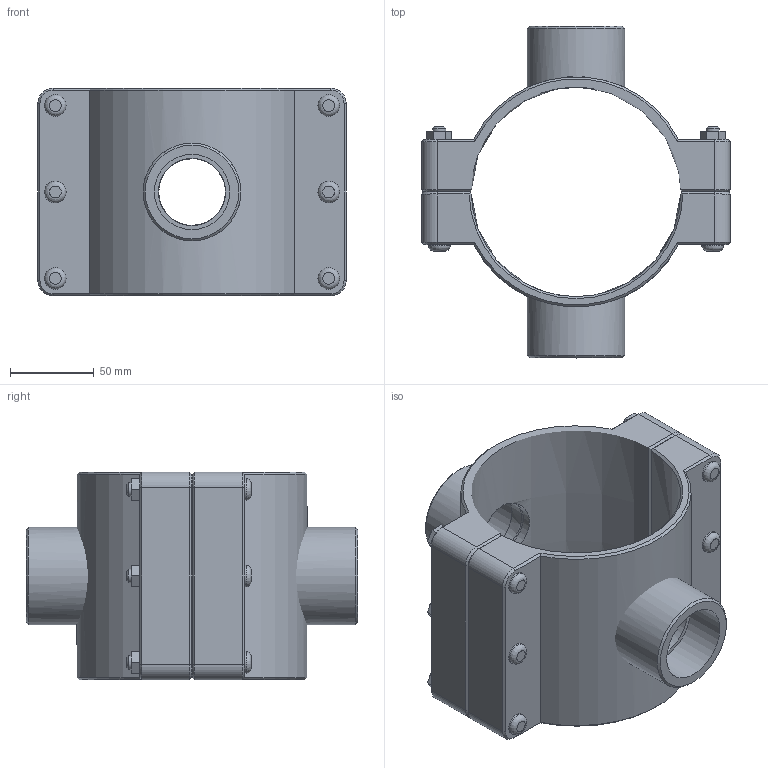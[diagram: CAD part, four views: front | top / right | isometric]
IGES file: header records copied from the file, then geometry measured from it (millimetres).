
Global section: file name: 161760125015_161860125015.ipt; native system: Autodesk Inventor 2015; preprocessor: unknown; author: KIM; date: 20170618.093753; units: millimetre
Bounding box: 184 x 198 x 124 mm (x, y, z)
Volume: 781787.4 mm3; surface area: 164076 mm2
Topology: 3 solids, 3 shells, 179 faces, 416 edges, 265 vertices
Faces by surface type: plane 102, cylinder 30, cone 28, revolution 19
Full cylindrical faces by diameter (mm): 8 x6, 13 x12, 58.298 x2
